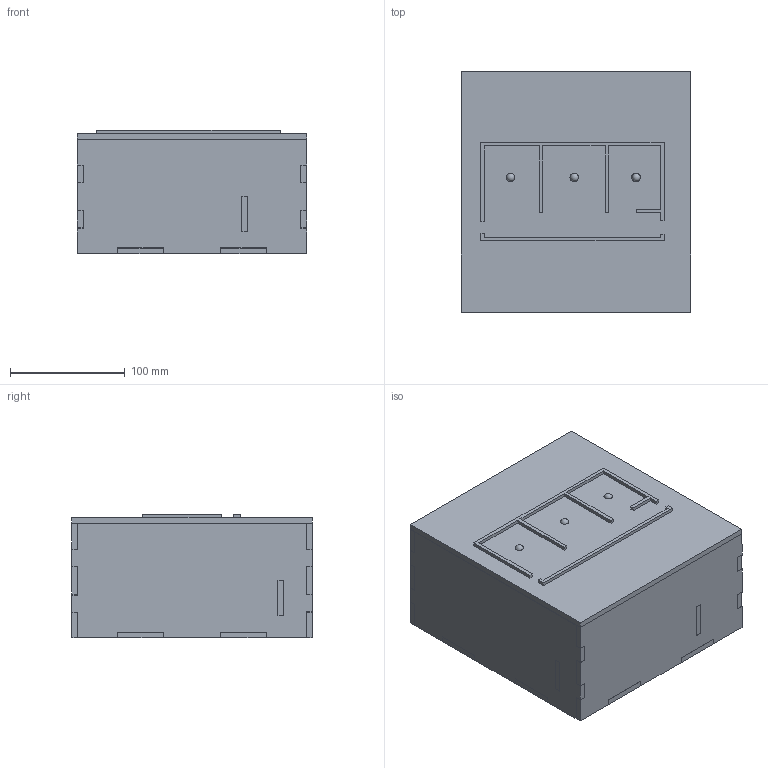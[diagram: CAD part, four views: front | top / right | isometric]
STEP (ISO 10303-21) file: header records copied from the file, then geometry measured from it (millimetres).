
FILE_DESCRIPTION(/* description */ (''),/* implementation_level */ '2;1');
FILE_NAME(/* name */ '5fb6af77ffcd951623893306',/* time_stamp */ '2020-11-19T17:46:32+00:00',/* author */ (''),/* organization */ (''),/* preprocessor_version */ 'ST-DEVELOPER v16.7',/* originating_system */ $,/* authorisation */ $);
FILE_SCHEMA (('AUTOMOTIVE_DESIGN {1 0 10303 214 3 1 1}'));
Length unit declared in the file: metre
Products named in the file (15): Assembly base; Part 1; Part 2; Part 3; Part 4; Part 5
Assembly tree (18 placements, depth 2):
  Assembly base
    Part 1
    Part 1
    Part 2
    Part 1  x3
    Part 1  x3
    Part 2
    Part 1
    Part 3
    Part 1
    Part 4
    Part 3
    Part 2
    Part 5
    Part 1
Bounding box: 200 x 210.09 x 108.2 mm (x, y, z)
Volume: 887706.5 mm3; surface area: 397937.9 mm2
Topology: 18 solids, 18 shells, 474 faces, 1296 edges, 860 vertices
Faces by surface type: plane 405, cylinder 66, sphere 3
Full cylindrical faces by diameter (mm): 5 x3, 5.5 x3, 7 x3, 7.5 x3, 10 x3, 13 x3
Entity records: 11153 total; most frequent: CARTESIAN_POINT 1953, ORIENTED_EDGE 1868, DIRECTION 1704, EDGE_CURVE 934, LINE 878, VECTOR 878, VERTEX_POINT 626, AXIS2_PLACEMENT_3D 413
